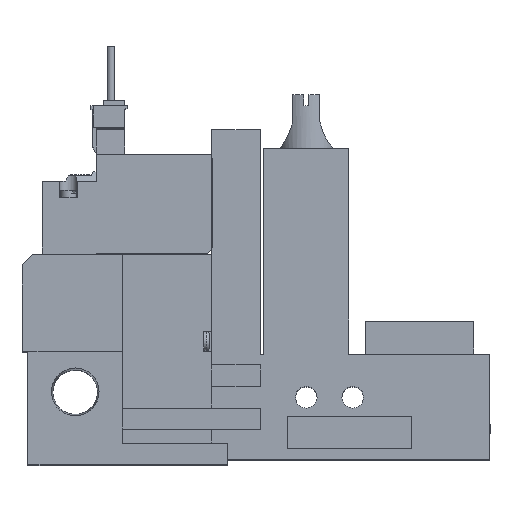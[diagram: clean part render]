
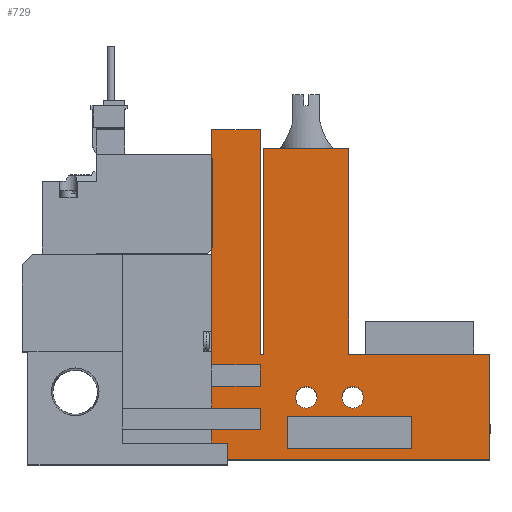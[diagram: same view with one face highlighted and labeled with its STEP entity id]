
A CAD part, top view. The second image highlights one B-rep face of the part: STEP entity #729.
In plain terms, the highlighted planar face has unit normal (0, 0, 1).
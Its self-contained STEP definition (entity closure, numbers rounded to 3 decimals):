
#729=ADVANCED_FACE('',(#1465,#1466,#1467,#1468),#1469,.T.);
#1465=FACE_OUTER_BOUND('',#2383,.T.);
#1466=FACE_BOUND('',#2384,.T.);
#1467=FACE_BOUND('',#2385,.T.);
#1468=FACE_BOUND('',#2386,.T.);
#1469=PLANE('',#2387);
#2383=EDGE_LOOP('',(#5085,#5086,#5087,#5088,#5089,#5090,#5091,#5092,#5093,#5094,#5095,#5096,#5097,#5098,#5099,#5100,#5101,#5102));
#2384=EDGE_LOOP('',(#5103,#5104,#5105,#5106));
#2385=EDGE_LOOP('',(#5107));
#2386=EDGE_LOOP('',(#5108));
#2387=AXIS2_PLACEMENT_3D('',#5109,#5110,#5111);
#5085=ORIENTED_EDGE('',*,*,#6579,.T.);
#5086=ORIENTED_EDGE('',*,*,#6559,.T.);
#5087=ORIENTED_EDGE('',*,*,#6554,.T.);
#5088=ORIENTED_EDGE('',*,*,#6556,.T.);
#5089=ORIENTED_EDGE('',*,*,#6494,.T.);
#5090=ORIENTED_EDGE('',*,*,#6590,.T.);
#5091=ORIENTED_EDGE('',*,*,#6547,.T.);
#5092=ORIENTED_EDGE('',*,*,#6523,.T.);
#5093=ORIENTED_EDGE('',*,*,#6541,.T.);
#5094=ORIENTED_EDGE('',*,*,#6612,.T.);
#5095=ORIENTED_EDGE('',*,*,#6623,.T.);
#5096=ORIENTED_EDGE('',*,*,#6459,.T.);
#5097=ORIENTED_EDGE('',*,*,#6456,.T.);
#5098=ORIENTED_EDGE('',*,*,#6463,.T.);
#5099=ORIENTED_EDGE('',*,*,#6467,.T.);
#5100=ORIENTED_EDGE('',*,*,#6589,.T.);
#5101=ORIENTED_EDGE('',*,*,#6586,.T.);
#5102=ORIENTED_EDGE('',*,*,#6582,.T.);
#5103=ORIENTED_EDGE('',*,*,#6566,.T.);
#5104=ORIENTED_EDGE('',*,*,#6567,.T.);
#5105=ORIENTED_EDGE('',*,*,#6564,.T.);
#5106=ORIENTED_EDGE('',*,*,#6453,.T.);
#5107=ORIENTED_EDGE('',*,*,#6491,.T.);
#5108=ORIENTED_EDGE('',*,*,#6545,.T.);
#5109=CARTESIAN_POINT('',(0.0,0.0,10.0));
#5110=DIRECTION('',(0.0,0.0,1.0));
#5111=DIRECTION('',(1.0,0.0,0.0));
#6453=EDGE_CURVE('',#7864,#7869,#7871,.T.);
#6456=EDGE_CURVE('',#7877,#7875,#7878,.T.);
#6459=EDGE_CURVE('',#7882,#7877,#7883,.T.);
#6463=EDGE_CURVE('',#7875,#7887,#7889,.T.);
#6467=EDGE_CURVE('',#7887,#7893,#7895,.T.);
#6491=EDGE_CURVE('',#7939,#7939,#7940,.T.);
#6494=EDGE_CURVE('',#7946,#7944,#7947,.T.);
#6523=EDGE_CURVE('',#7998,#7996,#7999,.T.);
#6541=EDGE_CURVE('',#7996,#8025,#8027,.T.);
#6545=EDGE_CURVE('',#8033,#8033,#8034,.T.);
#6547=EDGE_CURVE('',#8035,#7998,#8037,.T.);
#6554=EDGE_CURVE('',#8046,#8048,#8050,.T.);
#6556=EDGE_CURVE('',#8048,#7946,#8052,.T.);
#6559=EDGE_CURVE('',#8053,#8046,#8057,.T.);
#6564=EDGE_CURVE('',#8063,#7864,#8065,.T.);
#6566=EDGE_CURVE('',#7869,#8066,#8068,.T.);
#6567=EDGE_CURVE('',#8066,#8063,#8069,.T.);
#6579=EDGE_CURVE('',#8088,#8053,#8089,.T.);
#6582=EDGE_CURVE('',#8093,#8088,#8094,.T.);
#6586=EDGE_CURVE('',#8100,#8093,#8101,.T.);
#6589=EDGE_CURVE('',#7893,#8100,#8104,.T.);
#6590=EDGE_CURVE('',#7944,#8035,#8105,.T.);
#6612=EDGE_CURVE('',#8025,#8134,#8136,.T.);
#6623=EDGE_CURVE('',#8134,#7882,#8148,.T.);
#7864=VERTEX_POINT('',#10136);
#7869=VERTEX_POINT('',#10143);
#7871=LINE('',#10146,#10147);
#7875=VERTEX_POINT('',#10152);
#7877=VERTEX_POINT('',#10155);
#7878=LINE('',#10156,#10157);
#7882=VERTEX_POINT('',#10163);
#7883=LINE('',#10164,#10165);
#7887=VERTEX_POINT('',#10171);
#7889=LINE('',#10174,#10175);
#7893=VERTEX_POINT('',#10180);
#7895=LINE('',#10183,#10184);
#7939=VERTEX_POINT('',#10244);
#7940=CIRCLE('',#10245,2.0);
#7944=VERTEX_POINT('',#10250);
#7946=VERTEX_POINT('',#10253);
#7947=LINE('',#10254,#10255);
#7996=VERTEX_POINT('',#10329);
#7998=VERTEX_POINT('',#10332);
#7999=LINE('',#10333,#10334);
#8025=VERTEX_POINT('',#10375);
#8027=LINE('',#10378,#10379);
#8033=VERTEX_POINT('',#10387);
#8034=CIRCLE('',#10388,2.0);
#8035=VERTEX_POINT('',#10389);
#8037=LINE('',#10392,#10393);
#8046=VERTEX_POINT('',#10406);
#8048=VERTEX_POINT('',#10409);
#8050=LINE('',#10412,#10413);
#8052=LINE('',#10416,#10417);
#8053=VERTEX_POINT('',#10418);
#8057=LINE('',#10424,#10425);
#8063=VERTEX_POINT('',#10434);
#8065=LINE('',#10437,#10438);
#8066=VERTEX_POINT('',#10439);
#8068=LINE('',#10442,#10443);
#8069=LINE('',#10444,#10445);
#8088=VERTEX_POINT('',#10475);
#8089=LINE('',#10476,#10477);
#8093=VERTEX_POINT('',#10483);
#8094=LINE('',#10484,#10485);
#8100=VERTEX_POINT('',#10493);
#8101=LINE('',#10494,#10495);
#8104=LINE('',#10500,#10501);
#8105=LINE('',#10502,#10503);
#8134=VERTEX_POINT('',#10550);
#8136=LINE('',#10553,#10554);
#8148=LINE('',#10575,#10576);
#10136=CARTESIAN_POINT('',(72.1,2.0,10.0));
#10143=CARTESIAN_POINT('',(49.1,2.0,10.0));
#10146=CARTESIAN_POINT('',(0.0,2.0,10.0));
#10147=VECTOR('',#11945,1.0);
#10152=CARTESIAN_POINT('',(60.45,57.5,10.0));
#10155=CARTESIAN_POINT('',(60.45,19.5,10.0));
#10156=CARTESIAN_POINT('',(60.45,19.5,10.0));
#10157=VECTOR('',#11948,1.0);
#10163=CARTESIAN_POINT('',(86.6,19.5,10.0));
#10164=CARTESIAN_POINT('',(86.6,19.5,10.0));
#10165=VECTOR('',#11951,1.0);
#10171=CARTESIAN_POINT('',(44.75,57.5,10.0));
#10174=CARTESIAN_POINT('',(60.45,57.5,10.0));
#10175=VECTOR('',#11955,1.0);
#10180=CARTESIAN_POINT('',(44.75,19.5,10.0));
#10183=CARTESIAN_POINT('',(44.75,57.5,10.0));
#10184=VECTOR('',#11961,1.0);
#10244=CARTESIAN_POINT('',(54.6,11.5,10.0));
#10245=AXIS2_PLACEMENT_3D('',#11999,#12000,#12001);
#10250=CARTESIAN_POINT('',(35.1,9.5,10.0));
#10253=CARTESIAN_POINT('',(35.1,13.5,10.0));
#10254=CARTESIAN_POINT('',(35.1,0.0,10.0));
#10255=VECTOR('',#12004,1.0);
#10329=CARTESIAN_POINT('',(35.1,5.5,10.0));
#10332=CARTESIAN_POINT('',(44.1,5.5,10.0));
#10333=CARTESIAN_POINT('',(0.0,5.5,10.0));
#10334=VECTOR('',#12037,1.0);
#10375=CARTESIAN_POINT('',(35.1,0.0,10.0));
#10378=CARTESIAN_POINT('',(35.1,0.0,10.0));
#10379=VECTOR('',#12057,1.0);
#10387=CARTESIAN_POINT('',(63.2,11.5,10.0));
#10388=AXIS2_PLACEMENT_3D('',#12063,#12064,#12065);
#10389=CARTESIAN_POINT('',(44.1,9.5,10.0));
#10392=CARTESIAN_POINT('',(44.1,0.0,10.0));
#10393=VECTOR('',#12067,1.0);
#10406=CARTESIAN_POINT('',(44.1,17.5,10.0));
#10409=CARTESIAN_POINT('',(44.1,13.5,10.0));
#10412=CARTESIAN_POINT('',(44.1,0.0,10.0));
#10413=VECTOR('',#12074,1.0);
#10416=CARTESIAN_POINT('',(0.0,13.5,10.0));
#10417=VECTOR('',#12076,1.0);
#10418=CARTESIAN_POINT('',(35.1,17.5,10.0));
#10424=CARTESIAN_POINT('',(0.0,17.5,10.0));
#10425=VECTOR('',#12079,1.0);
#10434=CARTESIAN_POINT('',(72.1,8.0,10.0));
#10437=CARTESIAN_POINT('',(72.1,0.0,10.0));
#10438=VECTOR('',#12084,1.0);
#10439=CARTESIAN_POINT('',(49.1,8.0,10.0));
#10442=CARTESIAN_POINT('',(49.1,0.0,10.0));
#10443=VECTOR('',#12086,1.0);
#10444=CARTESIAN_POINT('',(0.0,8.0,10.0));
#10445=VECTOR('',#12087,1.0);
#10475=CARTESIAN_POINT('',(35.1,61.0,10.0));
#10476=CARTESIAN_POINT('',(35.1,61.0,10.0));
#10477=VECTOR('',#12099,1.0);
#10483=CARTESIAN_POINT('',(44.1,61.0,10.0));
#10484=CARTESIAN_POINT('',(44.1,61.0,10.0));
#10485=VECTOR('',#12102,1.0);
#10493=CARTESIAN_POINT('',(44.1,19.5,10.0));
#10494=CARTESIAN_POINT('',(44.1,19.5,10.0));
#10495=VECTOR('',#12108,1.0);
#10500=CARTESIAN_POINT('',(44.75,19.5,10.0));
#10501=VECTOR('',#12111,1.0);
#10502=CARTESIAN_POINT('',(0.0,9.5,10.0));
#10503=VECTOR('',#12112,1.0);
#10550=CARTESIAN_POINT('',(86.6,0.0,10.0));
#10553=CARTESIAN_POINT('',(18.6,0.0,10.0));
#10554=VECTOR('',#12138,1.0);
#10575=CARTESIAN_POINT('',(86.6,0.0,10.0));
#10576=VECTOR('',#12148,1.0);
#11945=DIRECTION('',(-1.0,0.0,0.0));
#11948=DIRECTION('',(0.0,1.0,0.0));
#11951=DIRECTION('',(-1.0,0.0,0.0));
#11955=DIRECTION('',(-1.0,0.0,0.0));
#11961=DIRECTION('',(0.0,-1.0,0.0));
#11999=CARTESIAN_POINT('',(52.6,11.5,10.0));
#12000=DIRECTION('',(0.0,0.0,-1.0));
#12001=DIRECTION('',(1.0,0.0,0.0));
#12004=DIRECTION('',(0.0,-1.0,0.0));
#12037=DIRECTION('',(-1.0,0.0,0.0));
#12057=DIRECTION('',(0.0,-1.0,0.0));
#12063=CARTESIAN_POINT('',(61.2,11.5,10.0));
#12064=DIRECTION('',(0.0,0.0,-1.0));
#12065=DIRECTION('',(1.0,0.0,0.0));
#12067=DIRECTION('',(0.0,-1.0,0.0));
#12074=DIRECTION('',(0.0,-1.0,0.0));
#12076=DIRECTION('',(-1.0,0.0,0.0));
#12079=DIRECTION('',(1.0,0.0,0.0));
#12084=DIRECTION('',(0.0,-1.0,0.0));
#12086=DIRECTION('',(0.0,1.0,0.0));
#12087=DIRECTION('',(1.0,0.0,0.0));
#12099=DIRECTION('',(0.0,-1.0,0.0));
#12102=DIRECTION('',(-1.0,0.0,0.0));
#12108=DIRECTION('',(0.0,1.0,0.0));
#12111=DIRECTION('',(-1.0,0.0,0.0));
#12112=DIRECTION('',(1.0,0.0,0.0));
#12138=DIRECTION('',(1.0,0.0,0.0));
#12148=DIRECTION('',(0.0,1.0,0.0));
